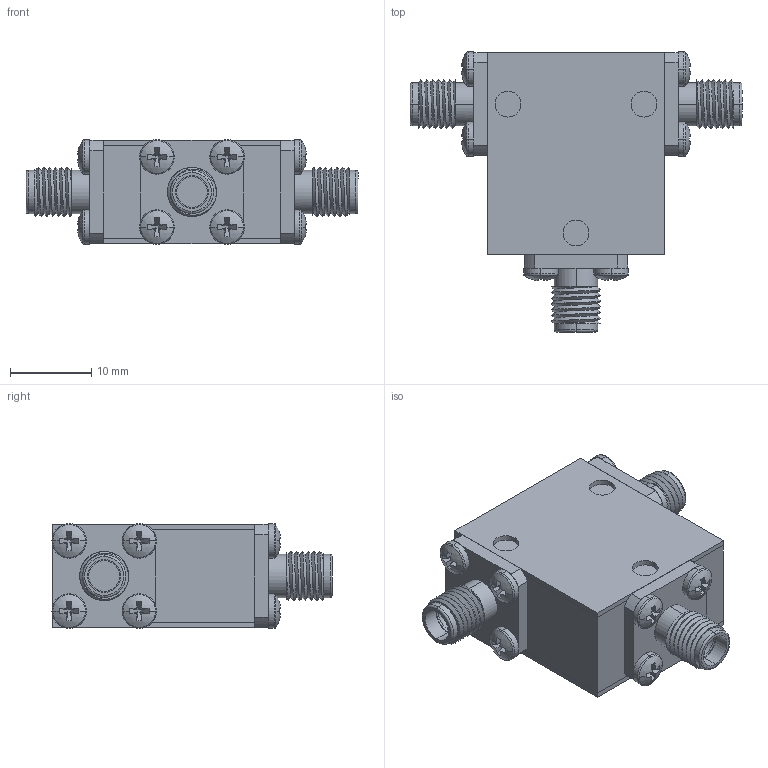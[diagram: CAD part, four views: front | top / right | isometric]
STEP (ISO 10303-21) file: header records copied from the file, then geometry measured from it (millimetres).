
FILE_DESCRIPTION (( 'STEP AP214' ), '1' );
FILE_NAME ('Package 4 Circ FFF.step', '2021-12-01T21:00:27', ( '' ), ( '' ), 'SwSTEP 2.0', 'SolidWorks 2016', '' );
FILE_SCHEMA (( 'AUTOMOTIVE_DESIGN' ));
Length unit declared in the file: inch
Products named in the file (6): pan cross head_ai_CR-PHMS 0.086-56x0.125x0.125-N; Delta SMA-Female 0.500 flange Threaded; Package 4; Package Size 4; 0.5 x 0.5 Blank Template; Package 4 Circ FFF
Assembly tree (18 placements, depth 2):
  Package 4 Circ FFF
    Package Size 4
    Package 4
    Delta SMA-Female 0.500 flange Threaded  x3
    pan cross head_ai_CR-PHMS 0.086-56x0.125x0.125-N  x12
    0.5 x 0.5 Blank Template
Bounding box: 40.89 x 34.51 x 12.88 mm (x, y, z)
Volume: 8083.8 mm3; surface area: 7886.1 mm2
Topology: 18 solids, 18 shells, 431 faces, 981 edges, 607 vertices
Faces by surface type: plane 238, cylinder 130, torus 30, sphere 24, bspline 9
Entity records: 4071 total; most frequent: CARTESIAN_POINT 1256, DIRECTION 581, ORIENTED_EDGE 482, EDGE_CURVE 241, AXIS2_PLACEMENT_3D 230, VERTEX_POINT 155, EDGE_LOOP 126, VECTOR 121
